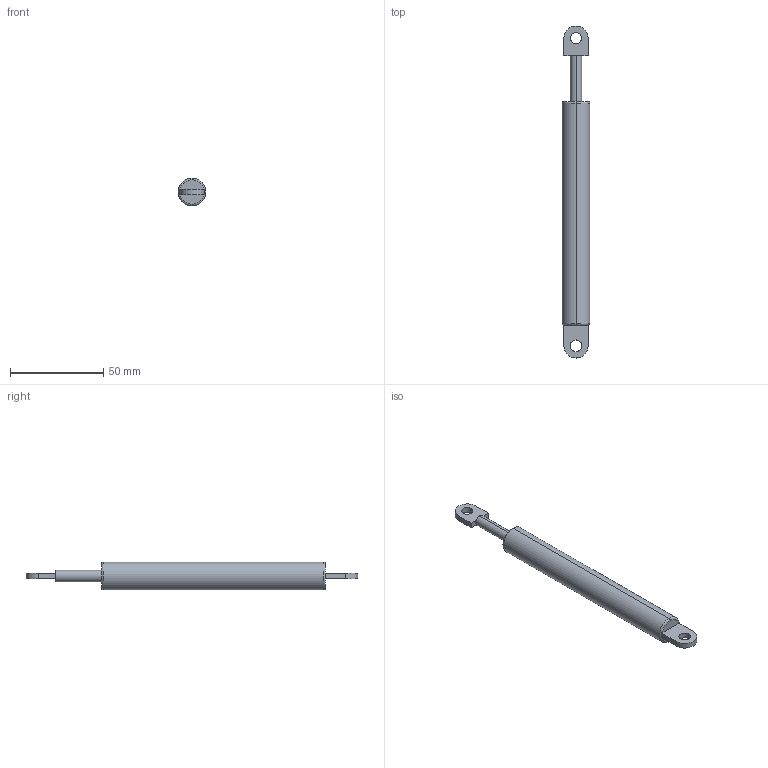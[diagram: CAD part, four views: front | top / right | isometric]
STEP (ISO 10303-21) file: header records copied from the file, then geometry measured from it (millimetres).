
FILE_DESCRIPTION (( 'STEP AP203' ), '1' );
FILE_NAME ('084.527.005.STEP', '2018-03-09T14:24:34', ( '' ), ( '' ), 'SwSTEP 2.0', 'SolidWorks 2016', '' );
FILE_SCHEMA (( 'CONFIG_CONTROL_DESIGN' ));
Length unit declared in the file: millimetre
Products named in the file (3): 084.527.002 - CORPO; 084.527.002 - STELO_Default<A macchina>; 084.527.005
Assembly tree (2 placements, depth 2):
  084.527.005
    084.527.002 - CORPO
    084.527.002 - STELO_Default<A macchina>
Bounding box: 15 x 178 x 15 mm (x, y, z)
Volume: 25736.9 mm3; surface area: 9385.3 mm2
Topology: 2 solids, 2 shells, 30 faces, 70 edges, 44 vertices
Faces by surface type: plane 16, cylinder 10, torus 4
Entity records: 1187 total; most frequent: CARTESIAN_POINT 171, DIRECTION 168, ORIENTED_EDGE 140, EDGE_CURVE 70, AXIS2_PLACEMENT_3D 69, VERTEX_POINT 44, EDGE_LOOP 34, CIRCLE 34
